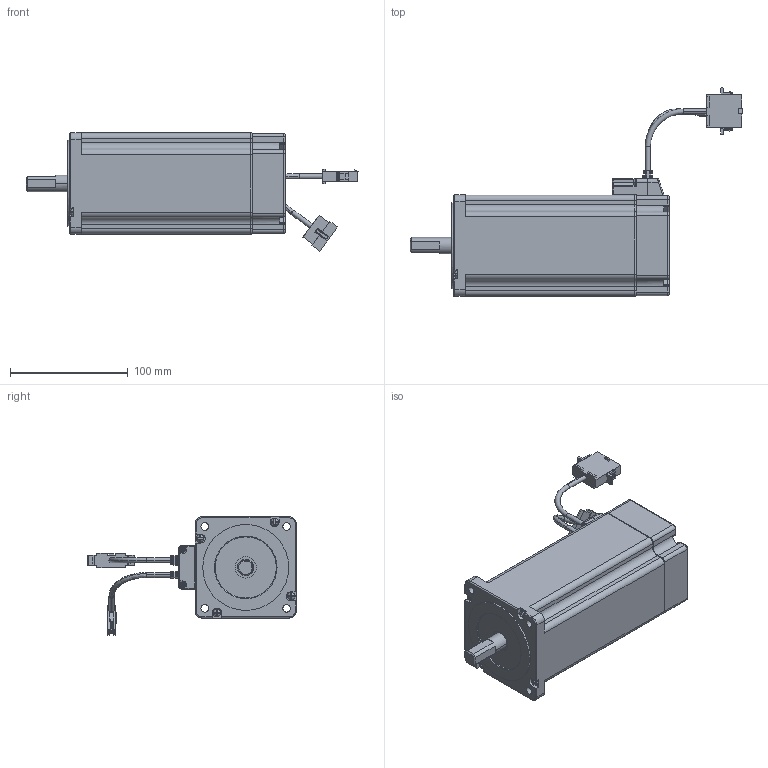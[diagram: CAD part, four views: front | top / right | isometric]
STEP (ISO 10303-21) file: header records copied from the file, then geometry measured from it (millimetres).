
FILE_DESCRIPTION (( 'STEP AP203' ), '1' );
FILE_NAME ('P11-MO-086-03-R00.STEP', '2017-03-03T03:42:13', ( '' ), ( '' ), 'SwSTEP 2.0', 'SolidWorks 2013', '' );
FILE_SCHEMA (( 'CONFIG_CONTROL_DESIGN' ));
Length unit declared in the file: millimetre
Products named in the file (8): pan cross head_ks_KS 1023 PC- M3 x 16-N; P11-MO-086-03-R00; M11-MO-086-03-R00(EzM-86XL-01); M11-EC-086-01-R01; M11-EC-086-02-R00; 42阿 浚内歹 纳捞喉急_钎霖; 86陝 賅攪瞪錳摹; pan cross head_ks_KS 1023 PC- M3 x 25-N
Assembly tree (11 placements, depth 2):
  P11-MO-086-03-R00
    M11-MO-086-03-R00(EzM-86XL-01)
    M11-EC-086-01-R01
    M11-EC-086-02-R00
    42阿 浚内歹 纳捞喉急_钎霖
    86陝 賅攪瞪錳摹
    pan cross head_ks_KS 1023 PC- M3 x 25-N  x4
    pan cross head_ks_KS 1023 PC- M3 x 16-N  x2
Bounding box: 282 x 177.25 x 100.57 mm (x, y, z)
Volume: 1095099.3 mm3; surface area: 120014.5 mm2
Topology: 11 solids, 11 shells, 952 faces, 2471 edges, 1574 vertices
Faces by surface type: plane 526, cylinder 273, cone 57, bspline 40, torus 36, sphere 20
Entity records: 29334 total; most frequent: CARTESIAN_POINT 8173, DIRECTION 4245, ORIENTED_EDGE 4240, EDGE_CURVE 2120, AXIS2_PLACEMENT_3D 1494, VERTEX_POINT 1366, VECTOR 1257, LINE 1257
